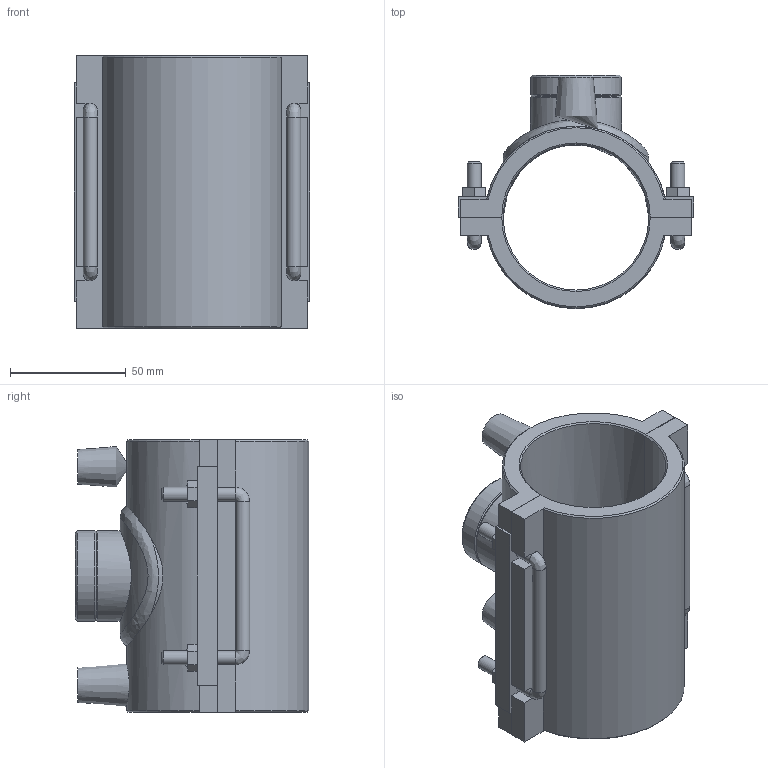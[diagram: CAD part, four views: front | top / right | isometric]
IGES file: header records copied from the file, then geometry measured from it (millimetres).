
Global section: file name: 4958T4063010.ipt; native system: Autodesk Inventor 2015; preprocessor: unknown; author: KIM; date: 20171106.094349; units: millimetre
Bounding box: 102 x 100.88 x 118 mm (x, y, z)
Volume: 267406.9 mm3; surface area: 83660.7 mm2
Topology: 1 solids, 2 shells, 139 faces, 353 edges, 222 vertices
Faces by surface type: plane 82, cylinder 21, revolution 14, cone 13, bspline 9
Full cylindrical faces by diameter (mm): 4 x2, 6 x10, 38.378 x1, 39.378 x2
